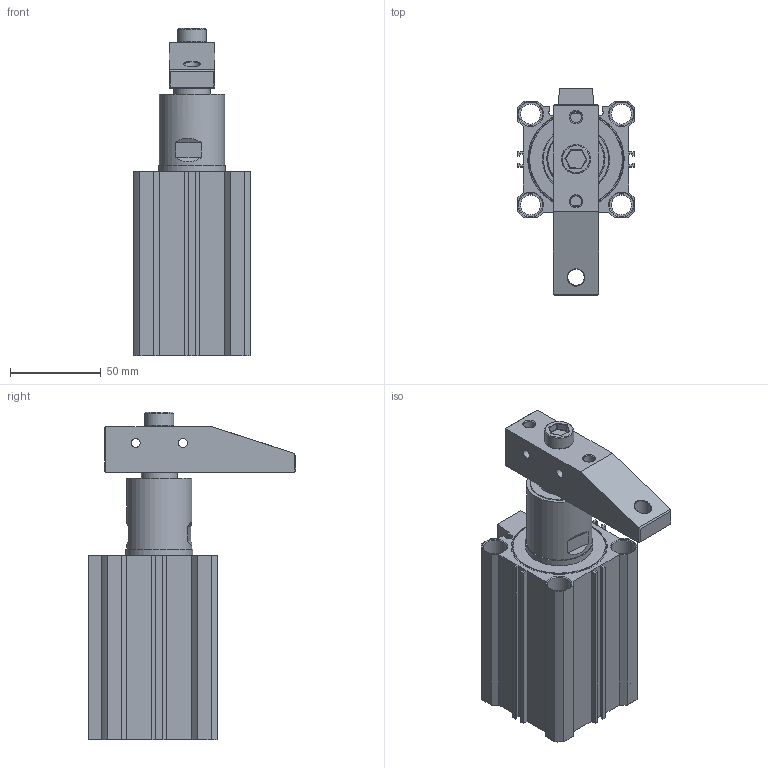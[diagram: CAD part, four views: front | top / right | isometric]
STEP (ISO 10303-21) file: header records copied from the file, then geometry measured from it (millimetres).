
FILE_DESCRIPTION(/* description */ ('STEP AP203'),/* implementation_level */ '2;1');
FILE_NAME(/* name */ 'E:\SERWER_ZAPAS\MODELE brakujace\PNEUMATIC\PB(STEP)\pbs-50转角缸\PBS-50R_ZAMKNIETY.stp',/* time_stamp */ '2019-02-01T15:48:35+01:00',/* author */ ('Admin'),/* organization */ ('Microsoft'),/* preprocessor_version */ 'ST-DEVELOPER v17.2',/* originating_system */ 'Autodesk Inventor 2019',/* authorisation */ '');
FILE_SCHEMA (('AUTOMOTIVE_DESIGN { 1 0 10303 214 3 1 1 }'));
Length unit declared in the file: millimetre
Products named in the file (10): PBS-50R_ZAMKNIETY; µæÆ¬_Ä¬ÈÏ; ºó¸Ç_Ä¬ÈÏ; s¸Ë_Ä¬ÈÏ; Ñ¹±Û_Ä¬ÈÏ; ¶¼_Ä¬ÈÏ; ±¾Ìå_Ä¬ÈÏ; »îÈû¸Ë_Ä¬ÈÏ; M12ÂÝ_Ä¬ÈÏ; Ç°¸Ç_Ä¬ÈÏ
Assembly tree (10 placements, depth 2):
  PBS-50R_ZAMKNIETY
    µæÆ¬_Ä¬ÈÏ
    ¶¼_Ä¬ÈÏ  x2
    ºó¸Ç_Ä¬ÈÏ
    s¸Ë_Ä¬ÈÏ
    Ñ¹±Û_Ä¬ÈÏ
    ±¾Ìå_Ä¬ÈÏ
    »îÈû¸Ë_Ä¬ÈÏ
    M12ÂÝ_Ä¬ÈÏ
    Ç°¸Ç_Ä¬ÈÏ
Bounding box: 64 x 114 x 180.5 mm (x, y, z)
Volume: 323431.2 mm3; surface area: 133135.2 mm2
Topology: 10 solids, 10 shells, 416 faces, 1173 edges, 805 vertices
Faces by surface type: plane 162, cylinder 113, cone 106, torus 25, bspline 8, sphere 2
Full cylindrical faces by diameter (mm): 2 x3, 4 x3, 5 x2, 5.5 x2, 6 x2, 6.2 x2, 8 x4, 9 x1, 10.5 x1, 10.596 x10, 11 x4, 12 x9, 12.5 x1, 13 x8, 14 x4, 16 x2, 18.6 x1, 19 x1, 20 x3, 20.5 x1, 22 x1, 24.3 x1, 28 x2, 32 x2, 36 x1, 36.938 x1, 46.5 x2, 50 x6, 51.4 x6, 52.6 x1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
Entity records: 16717 total; most frequent: CARTESIAN_POINT 5216, DIRECTION 2464, ORIENTED_EDGE 2304, EDGE_CURVE 1152, AXIS2_PLACEMENT_3D 983, VERTEX_POINT 793, CIRCLE 549, LINE 498
